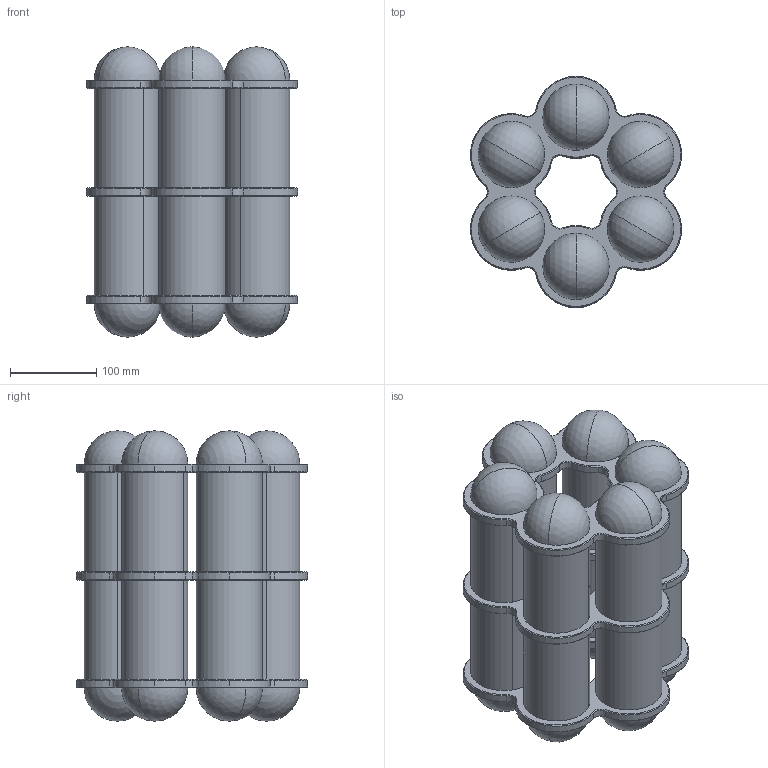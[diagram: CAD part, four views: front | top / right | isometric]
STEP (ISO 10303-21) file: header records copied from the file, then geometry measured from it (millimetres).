
FILE_DESCRIPTION (( 'STEP AP214' ), '1' );
FILE_NAME ('Sample Return Vessel.STEP', '2026-01-12T21:26:58', ( '' ), ( '' ), 'SwSTEP 2.0', 'SolidWorks 2026', '' );
FILE_SCHEMA (( 'AUTOMOTIVE_DESIGN' ));
Length unit declared in the file: millimetre
Products named in the file (1): Sample Return Vessel
Bounding box: 245 x 268.21 x 337 mm (x, y, z)
Volume: 9147207.9 mm3; surface area: 649070.9 mm2
Topology: 9 solids, 9 shells, 402 faces, 960 edges, 552 vertices
Faces by surface type: cone 240, cylinder 132, sphere 24, plane 6
Entity records: 11655 total; most frequent: DIRECTION 2306, CARTESIAN_POINT 1891, ORIENTED_EDGE 1872, AXIS2_PLACEMENT_3D 967, EDGE_CURVE 936, CIRCLE 564, VERTEX_POINT 552, EDGE_LOOP 444
